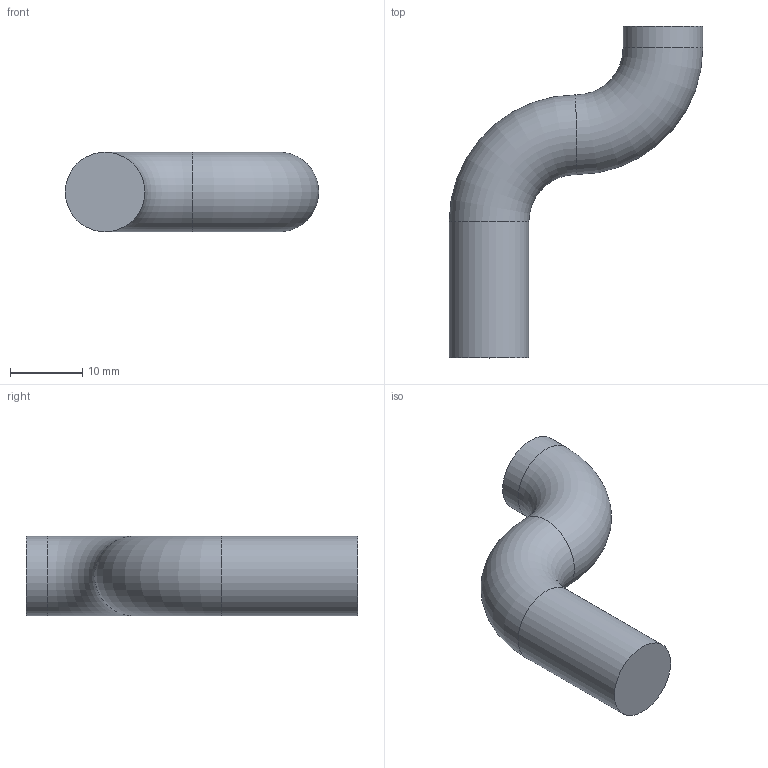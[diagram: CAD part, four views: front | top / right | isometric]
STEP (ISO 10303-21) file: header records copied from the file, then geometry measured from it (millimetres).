
FILE_DESCRIPTION(('Open CASCADE Model'),'2;1');
FILE_NAME('Open CASCADE Shape Model','2026-11-14T16:01:38',('Author'),( 'Open CASCADE'),'Open CASCADE STEP processor 7.9','Open CASCADE 7.9' ,'Unknown');
FILE_SCHEMA(('AUTOMOTIVE_DESIGN { 1 0 10303 214 1 1 1 1 }'));
Length unit declared in the file: millimetre
Products named in the file (1): Open CASCADE STEP translator 7.9 98
Bounding box: 35 x 45.8 x 11 mm (x, y, z)
Volume: 5654.4 mm3; surface area: 2246.2 mm2
Topology: 1 solids, 1 shells, 6 faces, 9 edges, 5 vertices
Faces by surface type: cylinder 2, torus 2, plane 2
Full cylindrical faces by diameter (mm): 11 x2
Entity records: 256 total; most frequent: CARTESIAN_POINT 46, DIRECTION 41, ORIENTED_EDGE 18, PCURVE 18, DEFINITIONAL_REPRESENTATION 18, AXIS2_PLACEMENT_3D 14, LINE 11, VECTOR 11
